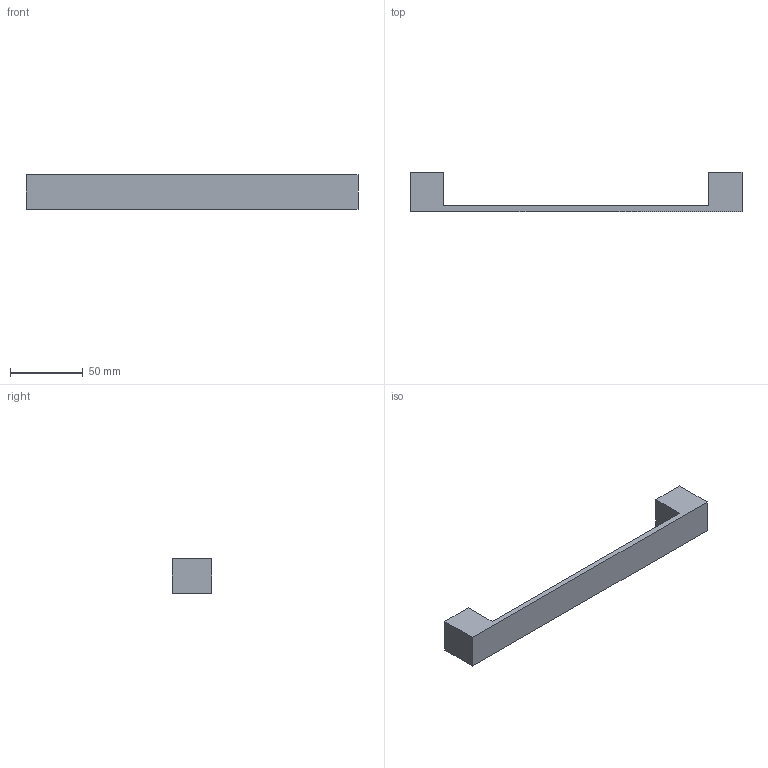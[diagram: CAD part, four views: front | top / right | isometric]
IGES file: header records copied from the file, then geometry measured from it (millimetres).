
Start section: Data from Parasolid IGES Translator 15.0.47, Copyright(c) 2006 Siemens P LM Software. All Rights Reserved.
Global section: file name: 9113184.igs; native system:  By UGS Corp.; preprocessor: XPlus GENERIC/IGES 3.0; author: Noname; organization: Noname; date: 20140123.103600; units: millimetre
Bounding box: 228 x 27 x 24 mm (x, y, z)
Surface area: 17989.1 mm2 (no closed solid volume)
Topology: 0 solids, 0 shells, 19 faces, 90 edges, 88 vertices
Faces by surface type: extrusion 13, revolution 6
